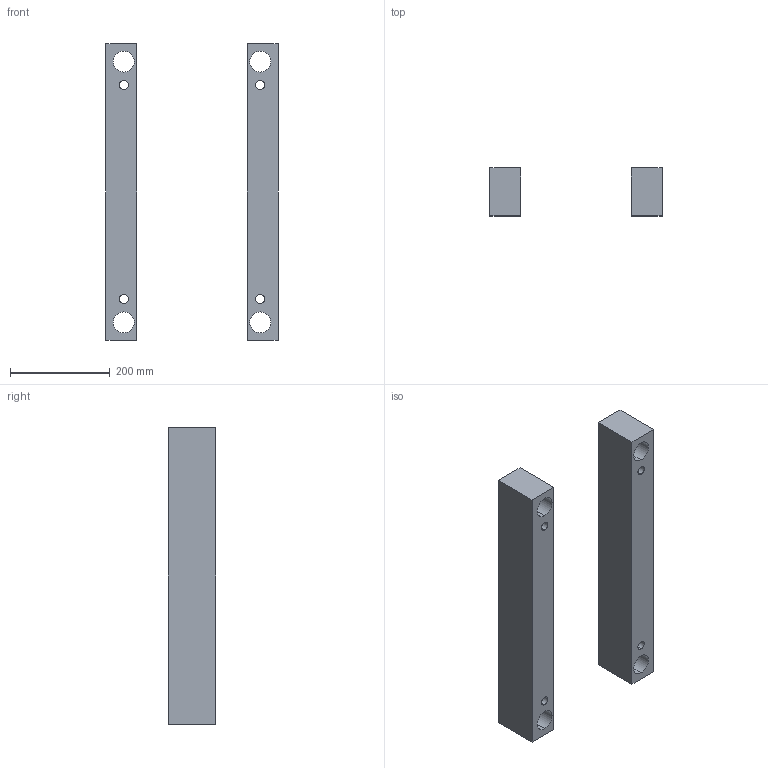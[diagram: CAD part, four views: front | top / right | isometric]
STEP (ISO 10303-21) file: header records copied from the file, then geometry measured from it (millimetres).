
FILE_DESCRIPTION (( 'STEP AP214' ), '1' );
FILE_NAME ('L50_346x596x096.STEP', '2018-10-05T18:59:45', ( '' ), ( '' ), 'SwSTEP 2.0', 'SolidWorks 2014', '' );
FILE_SCHEMA (( 'AUTOMOTIVE_DESIGN' ));
Length unit declared in the file: millimetre
Products named in the file (1): L50_346x596x096
Bounding box: 346 x 96 x 596 mm (x, y, z)
Volume: 6465058 mm3; surface area: 459743 mm2
Topology: 2 solids, 2 shells, 28 faces, 72 edges, 48 vertices
Faces by surface type: cylinder 16, plane 12
Entity records: 943 total; most frequent: DIRECTION 162, CARTESIAN_POINT 149, ORIENTED_EDGE 144, EDGE_CURVE 72, AXIS2_PLACEMENT_3D 61, VERTEX_POINT 48, EDGE_LOOP 44, LINE 40
